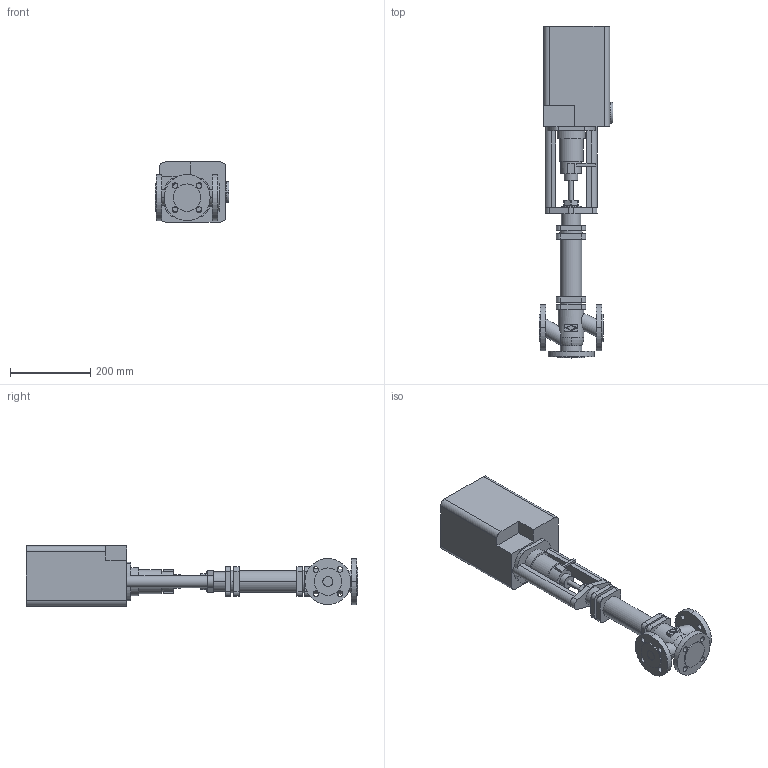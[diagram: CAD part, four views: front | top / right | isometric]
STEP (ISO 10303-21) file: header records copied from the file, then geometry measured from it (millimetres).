
FILE_DESCRIPTION(('OneSpaceDesigner STEP Export'),'2;1');
FILE_NAME('c000000416.stp','2006-09-21T11:36:18',(''),(''),'OneSpace Designer STEP processor for AP214 (Solid Model)','OneSpace Designer 13.20A 18-Aug-2005 (C) CoCreate Software GmbH','');
FILE_SCHEMA(('AUTOMOTIVE_DESIGN { 1 0 10303 214 1 1 1 1 }'));
Length unit declared in the file: millimetre
Products named in the file (2): 1; 2
Bounding box: 184.6 x 828 x 150 mm (x, y, z)
Volume: 8392170.6 mm3; surface area: 462155.3 mm2
Topology: 2 solids, 2 shells, 229 faces, 582 edges, 388 vertices
Faces by surface type: plane 113, cylinder 112, torus 4
Entity records: 6642 total; most frequent: CARTESIAN_POINT 1246, ORIENTED_EDGE 1164, DIRECTION 1043, EDGE_CURVE 582, VERTEX_POINT 388, AXIS2_PLACEMENT_3D 360, VECTOR 323, LINE 323
